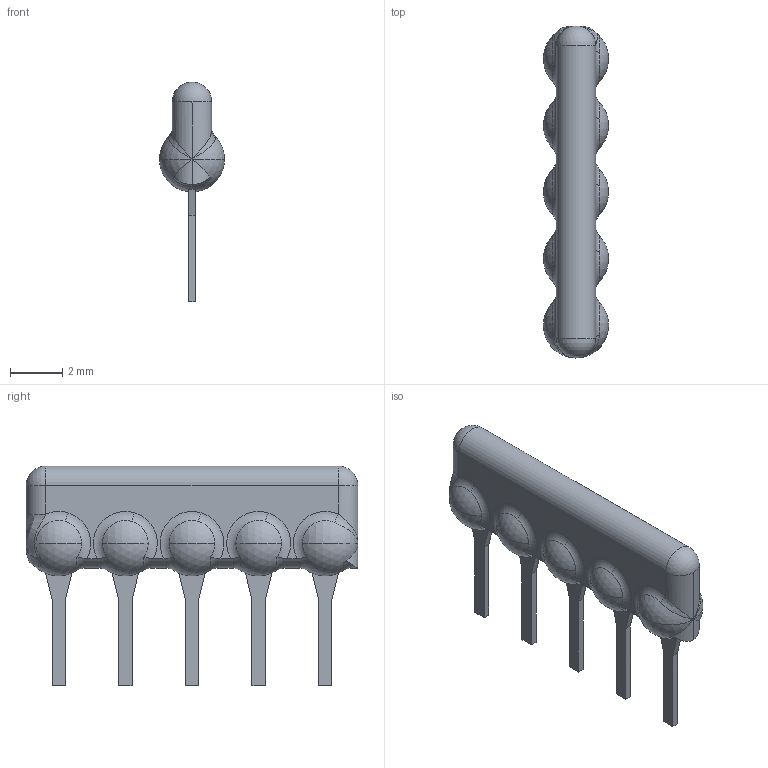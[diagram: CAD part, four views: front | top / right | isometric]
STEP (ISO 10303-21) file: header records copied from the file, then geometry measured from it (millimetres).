
FILE_DESCRIPTION(('STEP AP242'),'1');
FILE_NAME('4605x-101-473lf.stp','2020-02-28T19:45:05',('TraceParts'),('TraceParts S.A.'),'Spatial InterOp 3D',' ',' ');
FILE_SCHEMA(('AP242_MANAGED_MODEL_BASED_3D_ENGINEERING_MIM_LF {1 0 10303 442 1 1 4}'));
Length unit declared in the file: millimetre
Products named in the file (1): 4605x-101-473lf
Bounding box: 2.48 x 12.65 x 8.38 mm (x, y, z)
Volume: 81.2 mm3; surface area: 185.4 mm2
Topology: 1 solids, 11 shells, 189 faces, 437 edges, 269 vertices
Faces by surface type: plane 58, cone 40, torus 38, cylinder 31, sphere 17, bspline 5
Entity records: 6075 total; most frequent: CARTESIAN_POINT 1856, DIRECTION 902, ORIENTED_EDGE 862, EDGE_CURVE 431, AXIS2_PLACEMENT_3D 378, VERTEX_POINT 269, EDGE_LOOP 194, CIRCLE 193
